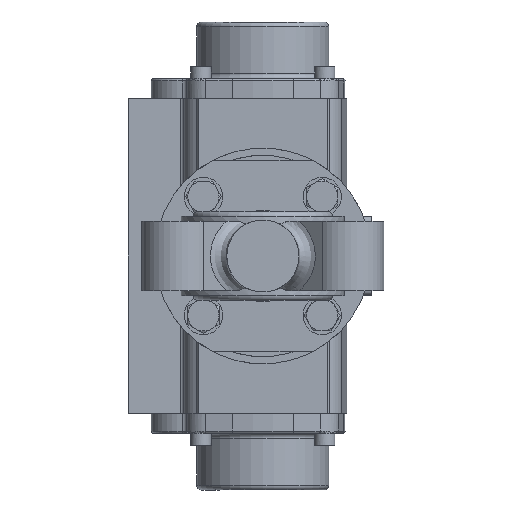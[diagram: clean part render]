
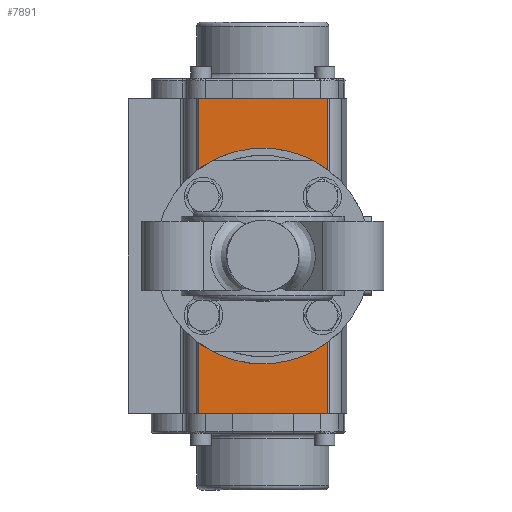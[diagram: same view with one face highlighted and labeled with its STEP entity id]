
A CAD part, front view. The second image highlights one B-rep face of the part: STEP entity #7891.
In plain terms, the highlighted planar face has unit normal (0, -1, 0).
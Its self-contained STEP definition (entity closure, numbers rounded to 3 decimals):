
#2 = EDGE_CURVE ( 'NONE', #11295, #13067, #23083, .T. ) ;
#378 = CARTESIAN_POINT ( 'NONE',  ( 17.678, -45., -17.678 ) ) ;
#495 = FACE_BOUND ( 'NONE', #10847, .T. ) ;
#622 = FACE_BOUND ( 'NONE', #20777, .T. ) ;
#743 = VERTEX_POINT ( 'NONE', #26468 ) ;
#760 = LINE ( 'NONE', #21584, #8537 ) ;
#822 = ORIENTED_EDGE ( 'NONE', *, *, #3970, .F. ) ;
#943 = VERTEX_POINT ( 'NONE', #7894 ) ;
#1347 = CIRCLE ( 'NONE', #25017, 2.5 ) ;
#1580 = LINE ( 'NONE', #5455, #11621 ) ;
#1841 = EDGE_CURVE ( 'NONE', #5597, #12229, #9361, .T. ) ;
#2172 = EDGE_CURVE ( 'NONE', #743, #4442, #760, .T. ) ;
#2404 = FACE_OUTER_BOUND ( 'NONE', #11497, .T. ) ;
#2648 = FACE_BOUND ( 'NONE', #11254, .T. ) ;
#2713 = AXIS2_PLACEMENT_3D ( 'NONE', #9935, #16019, #16155 ) ;
#2759 = CARTESIAN_POINT ( 'NONE',  ( -17.678, -45., 17.678 ) ) ;
#2782 = DIRECTION ( 'NONE',  ( 0., 0., -1. ) ) ;
#3017 = ORIENTED_EDGE ( 'NONE', *, *, #3251, .F. ) ;
#3111 = CARTESIAN_POINT ( 'NONE',  ( 17.678, -45., -17.678 ) ) ;
#3251 = EDGE_CURVE ( 'NONE', #4442, #24898, #1580, .T. ) ;
#3599 = ORIENTED_EDGE ( 'NONE', *, *, #1841, .F. ) ;
#3802 = DIRECTION ( 'NONE',  ( 0., 0., -1. ) ) ;
#3970 = EDGE_CURVE ( 'NONE', #12229, #5597, #22404, .T. ) ;
#4218 = DIRECTION ( 'NONE',  ( 0., -1., 0. ) ) ;
#4442 = VERTEX_POINT ( 'NONE', #25247 ) ;
#4856 = CARTESIAN_POINT ( 'NONE',  ( -17.678, -45., -17.678 ) ) ;
#4871 = EDGE_LOOP ( 'NONE', ( #14121, #7975 ) ) ;
#4949 = EDGE_CURVE ( 'NONE', #13067, #11295, #6518, .T. ) ;
#5039 = AXIS2_PLACEMENT_3D ( 'NONE', #2759, #10637, #8505 ) ;
#5084 = EDGE_CURVE ( 'NONE', #5487, #26053, #22402, .T. ) ;
#5176 = ORIENTED_EDGE ( 'NONE', *, *, #13185, .F. ) ;
#5455 = CARTESIAN_POINT ( 'NONE',  ( 65.45, -45., -27. ) ) ;
#5487 = VERTEX_POINT ( 'NONE', #25418 ) ;
#5597 = VERTEX_POINT ( 'NONE', #15698 ) ;
#6169 = DIRECTION ( 'NONE',  ( 0., 0., 1. ) ) ;
#6518 = CIRCLE ( 'NONE', #14224, 2.5 ) ;
#6527 = CARTESIAN_POINT ( 'NONE',  ( 65.45, -45., 27. ) ) ;
#6619 = CARTESIAN_POINT ( 'NONE',  ( 17.678, -45., -15.178 ) ) ;
#6840 = CIRCLE ( 'NONE', #14550, 2.5 ) ;
#7146 = LINE ( 'NONE', #23554, #24759 ) ;
#7256 = DIRECTION ( 'NONE',  ( 0., -1., 0. ) ) ;
#7287 = EDGE_CURVE ( 'NONE', #10072, #24898, #11116, .T. ) ;
#7570 = DIRECTION ( 'NONE',  ( 0., -1., 0. ) ) ;
#7812 = VERTEX_POINT ( 'NONE', #18363 ) ;
#7891 = ADVANCED_FACE ( 'NONE', ( #2648, #495, #25366, #25236, #622, #2404 ), #20788, .F. ) ;
#7893 = ORIENTED_EDGE ( 'NONE', *, *, #14065, .F. ) ;
#7894 = CARTESIAN_POINT ( 'NONE',  ( 17.678, -45., 15.178 ) ) ;
#7975 = ORIENTED_EDGE ( 'NONE', *, *, #4949, .F. ) ;
#8505 = DIRECTION ( 'NONE',  ( 0., 0., -1. ) ) ;
#8516 = AXIS2_PLACEMENT_3D ( 'NONE', #16387, #24601, #6169 ) ;
#8537 = VECTOR ( 'NONE', #21057, 1000. ) ;
#8548 = CIRCLE ( 'NONE', #15854, 2.5 ) ;
#8596 = EDGE_LOOP ( 'NONE', ( #16823, #17491 ) ) ;
#9361 = CIRCLE ( 'NONE', #8516, 15. ) ;
#9935 = CARTESIAN_POINT ( 'NONE',  ( 17.678, -45., 17.678 ) ) ;
#10072 = VERTEX_POINT ( 'NONE', #13601 ) ;
#10469 = EDGE_CURVE ( 'NONE', #743, #10072, #7146, .T. ) ;
#10477 = CARTESIAN_POINT ( 'NONE',  ( 0., -45., 0. ) ) ;
#10637 = DIRECTION ( 'NONE',  ( 0., -1., 0. ) ) ;
#10782 = CARTESIAN_POINT ( 'NONE',  ( -17.678, -45., -17.678 ) ) ;
#10847 = EDGE_LOOP ( 'NONE', ( #7893, #13611 ) ) ;
#11116 = LINE ( 'NONE', #20976, #23758 ) ;
#11254 = EDGE_LOOP ( 'NONE', ( #17291, #5176 ) ) ;
#11295 = VERTEX_POINT ( 'NONE', #22089 ) ;
#11497 = EDGE_LOOP ( 'NONE', ( #16476, #3017, #25670, #25649 ) ) ;
#11621 = VECTOR ( 'NONE', #13750, 1000. ) ;
#12229 = VERTEX_POINT ( 'NONE', #20129 ) ;
#12384 = DIRECTION ( 'NONE',  ( 0., 0., -1. ) ) ;
#12540 = VERTEX_POINT ( 'NONE', #17568 ) ;
#12622 = CARTESIAN_POINT ( 'NONE',  ( -17.678, -45., 20.178 ) ) ;
#12690 = DIRECTION ( 'NONE',  ( 0., 1., 0. ) ) ;
#13067 = VERTEX_POINT ( 'NONE', #12622 ) ;
#13140 = DIRECTION ( 'NONE',  ( 0., 0., -1. ) ) ;
#13185 = EDGE_CURVE ( 'NONE', #14445, #12540, #8548, .T. ) ;
#13414 = AXIS2_PLACEMENT_3D ( 'NONE', #23844, #22199, #3802 ) ;
#13601 = CARTESIAN_POINT ( 'NONE',  ( -65.45, -45., 27. ) ) ;
#13611 = ORIENTED_EDGE ( 'NONE', *, *, #5084, .F. ) ;
#13750 = DIRECTION ( 'NONE',  ( -1., 0., 0. ) ) ;
#14065 = EDGE_CURVE ( 'NONE', #26053, #5487, #1347, .T. ) ;
#14121 = ORIENTED_EDGE ( 'NONE', *, *, #2, .F. ) ;
#14224 = AXIS2_PLACEMENT_3D ( 'NONE', #20322, #4218, #12384 ) ;
#14445 = VERTEX_POINT ( 'NONE', #6619 ) ;
#14550 = AXIS2_PLACEMENT_3D ( 'NONE', #378, #22802, #2782 ) ;
#14766 = CARTESIAN_POINT ( 'NONE',  ( -17.678, -45., -20.178 ) ) ;
#15698 = CARTESIAN_POINT ( 'NONE',  ( 0., -45., 15. ) ) ;
#15854 = AXIS2_PLACEMENT_3D ( 'NONE', #3111, #7256, #23666 ) ;
#16019 = DIRECTION ( 'NONE',  ( 0., -1., 0. ) ) ;
#16155 = DIRECTION ( 'NONE',  ( 0., 0., -1. ) ) ;
#16263 = EDGE_CURVE ( 'NONE', #12540, #14445, #6840, .T. ) ;
#16387 = CARTESIAN_POINT ( 'NONE',  ( 0., -45., 0. ) ) ;
#16438 = CIRCLE ( 'NONE', #13414, 2.5 ) ;
#16476 = ORIENTED_EDGE ( 'NONE', *, *, #7287, .T. ) ;
#16697 = DIRECTION ( 'NONE',  ( 0., 0., 1. ) ) ;
#16823 = ORIENTED_EDGE ( 'NONE', *, *, #20380, .F. ) ;
#17291 = ORIENTED_EDGE ( 'NONE', *, *, #16263, .F. ) ;
#17491 = ORIENTED_EDGE ( 'NONE', *, *, #20341, .F. ) ;
#17568 = CARTESIAN_POINT ( 'NONE',  ( 17.678, -45., -20.178 ) ) ;
#18363 = CARTESIAN_POINT ( 'NONE',  ( 17.678, -45., 20.178 ) ) ;
#18718 = DIRECTION ( 'NONE',  ( 0., -1., 0. ) ) ;
#19054 = AXIS2_PLACEMENT_3D ( 'NONE', #6527, #12690, #25107 ) ;
#19247 = DIRECTION ( 'NONE',  ( -1., 0., 0. ) ) ;
#19374 = DIRECTION ( 'NONE',  ( 0., -1., 0. ) ) ;
#20129 = CARTESIAN_POINT ( 'NONE',  ( 0., -45., -15. ) ) ;
#20322 = CARTESIAN_POINT ( 'NONE',  ( -17.678, -45., 17.678 ) ) ;
#20341 = EDGE_CURVE ( 'NONE', #7812, #943, #20737, .T. ) ;
#20380 = EDGE_CURVE ( 'NONE', #943, #7812, #16438, .T. ) ;
#20737 = CIRCLE ( 'NONE', #2713, 2.5 ) ;
#20777 = EDGE_LOOP ( 'NONE', ( #3599, #822 ) ) ;
#20788 = PLANE ( 'NONE',  #19054 ) ;
#20976 = CARTESIAN_POINT ( 'NONE',  ( -65.45, -45., 27. ) ) ;
#21057 = DIRECTION ( 'NONE',  ( 0., 0., -1. ) ) ;
#21584 = CARTESIAN_POINT ( 'NONE',  ( 65.45, -45., 27. ) ) ;
#21982 = AXIS2_PLACEMENT_3D ( 'NONE', #4856, #19374, #23141 ) ;
#22089 = CARTESIAN_POINT ( 'NONE',  ( -17.678, -45., 15.178 ) ) ;
#22199 = DIRECTION ( 'NONE',  ( 0., -1., 0. ) ) ;
#22402 = CIRCLE ( 'NONE', #21982, 2.5 ) ;
#22404 = CIRCLE ( 'NONE', #24581, 15. ) ;
#22802 = DIRECTION ( 'NONE',  ( 0., -1., 0. ) ) ;
#23083 = CIRCLE ( 'NONE', #5039, 2.5 ) ;
#23141 = DIRECTION ( 'NONE',  ( 0., 0., -1. ) ) ;
#23554 = CARTESIAN_POINT ( 'NONE',  ( 65.45, -45., 27. ) ) ;
#23666 = DIRECTION ( 'NONE',  ( 0., 0., -1. ) ) ;
#23737 = DIRECTION ( 'NONE',  ( 0., 0., -1. ) ) ;
#23758 = VECTOR ( 'NONE', #13140, 1000. ) ;
#23844 = CARTESIAN_POINT ( 'NONE',  ( 17.678, -45., 17.678 ) ) ;
#24581 = AXIS2_PLACEMENT_3D ( 'NONE', #10477, #18718, #16697 ) ;
#24601 = DIRECTION ( 'NONE',  ( 0., -1., 0. ) ) ;
#24759 = VECTOR ( 'NONE', #19247, 1000. ) ;
#24898 = VERTEX_POINT ( 'NONE', #25416 ) ;
#25017 = AXIS2_PLACEMENT_3D ( 'NONE', #10782, #7570, #23737 ) ;
#25107 = DIRECTION ( 'NONE',  ( 0., 0., 1. ) ) ;
#25236 = FACE_BOUND ( 'NONE', #8596, .T. ) ;
#25247 = CARTESIAN_POINT ( 'NONE',  ( 65.45, -45., -27. ) ) ;
#25366 = FACE_BOUND ( 'NONE', #4871, .T. ) ;
#25416 = CARTESIAN_POINT ( 'NONE',  ( -65.45, -45., -27. ) ) ;
#25418 = CARTESIAN_POINT ( 'NONE',  ( -17.678, -45., -15.178 ) ) ;
#25649 = ORIENTED_EDGE ( 'NONE', *, *, #10469, .T. ) ;
#25670 = ORIENTED_EDGE ( 'NONE', *, *, #2172, .F. ) ;
#26053 = VERTEX_POINT ( 'NONE', #14766 ) ;
#26468 = CARTESIAN_POINT ( 'NONE',  ( 65.45, -45., 27. ) ) ;
